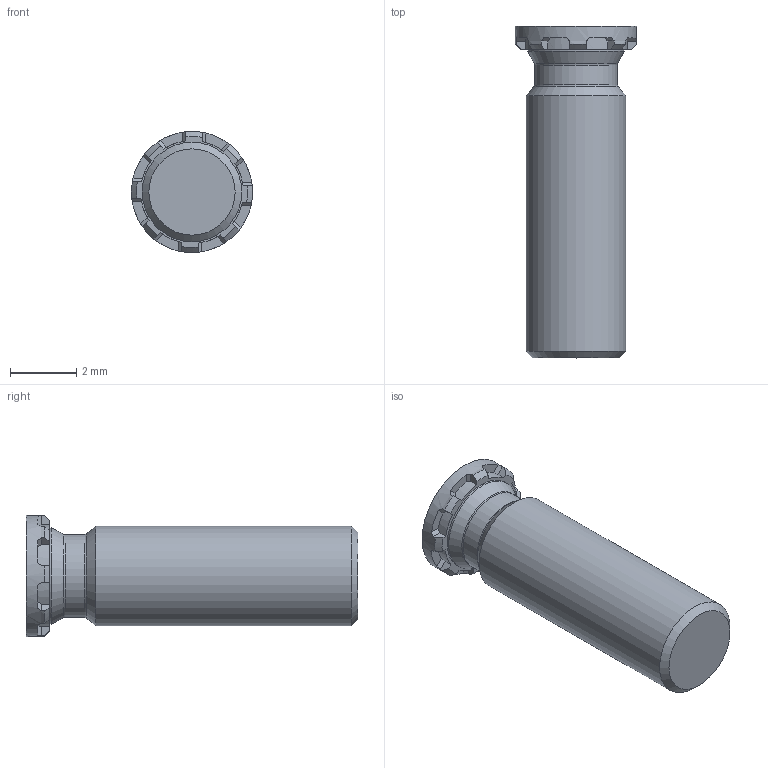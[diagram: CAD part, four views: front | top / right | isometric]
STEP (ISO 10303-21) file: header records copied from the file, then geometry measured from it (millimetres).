
FILE_DESCRIPTION(/* description */ (''),/* implementation_level */ '2;1');
FILE_NAME(/* name */ 'C:\Users\keval.kumar\Desktop\Fastit\Clinch Screw- Reduced FH Range\M3\Clinch Screw-Reduced FH Range_M3x10.stp',/* time_stamp */ '2024-03-12T12:54:45+05:00',/* author */ ('keval.kumar'),/* organization */ (''),/* preprocessor_version */ 'ST-DEVELOPER v18.1',/* originating_system */ 'Autodesk Inventor 2022',/* authorisation */ '');
FILE_SCHEMA (('AUTOMOTIVE_DESIGN { 1 0 10303 214 3 1 1 }'));
Length unit declared in the file: millimetre
Products named in the file (1): Clinch Screw-Reduced FH Range_M3x10
Bounding box: 3.65 x 10 x 3.65 mm (x, y, z)
Volume: 69.9 mm3; surface area: 115.6 mm2
Topology: 1 solids, 1 shells, 68 faces, 193 edges, 128 vertices
Faces by surface type: plane 43, cylinder 12, cone 11, torus 2
Full cylindrical faces by diameter (mm): 2.5 x1, 2.9 x1, 3 x1, 3.65 x1
Entity records: 2278 total; most frequent: CARTESIAN_POINT 422, DIRECTION 405, ORIENTED_EDGE 386, EDGE_CURVE 193, AXIS2_PLACEMENT_3D 159, VERTEX_POINT 128, LINE 87, VECTOR 87
